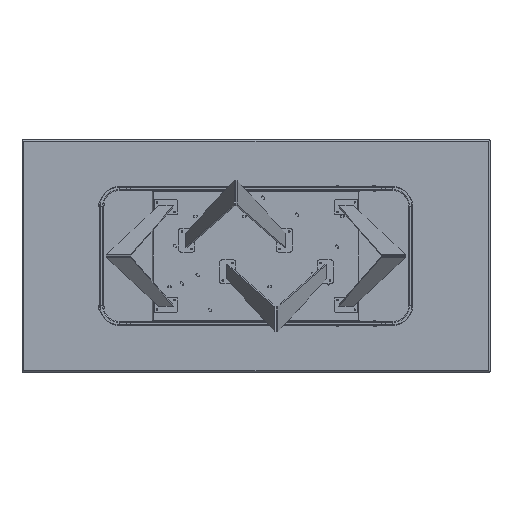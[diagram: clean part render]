
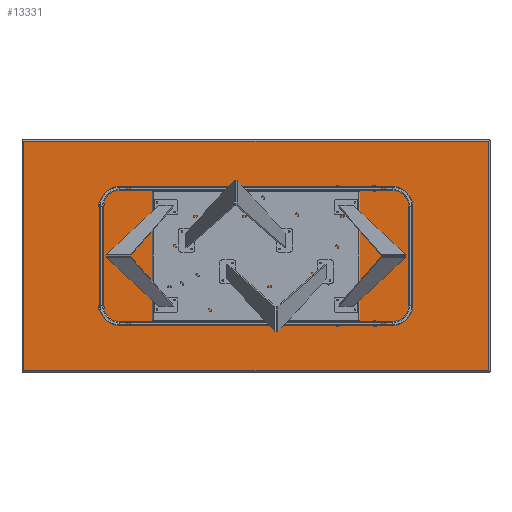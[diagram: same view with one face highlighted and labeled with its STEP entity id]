
A CAD part, front view. The second image highlights one B-rep face of the part: STEP entity #13331.
In plain terms, the highlighted planar face has unit normal (0, -1, 0).
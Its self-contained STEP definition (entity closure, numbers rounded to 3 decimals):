
#1037 = LINE ( 'NONE', #15084, #15863 ) ;
#1710 = CARTESIAN_POINT ( 'NONE',  ( 0., 0., -587. ) ) ;
#2579 = VECTOR ( 'NONE', #18784, 1000. ) ;
#3196 = LINE ( 'NONE', #1710, #10880 ) ;
#3388 = EDGE_CURVE ( 'NONE', #15142, #15985, #9777, .T. ) ;
#3508 = DIRECTION ( 'NONE',  ( 1., 0., 0. ) ) ;
#4086 = DIRECTION ( 'NONE',  ( 0., 0., 1. ) ) ;
#5242 = DIRECTION ( 'NONE',  ( 0., 0., 1. ) ) ;
#5378 = ORIENTED_EDGE ( 'NONE', *, *, #10091, .T. ) ;
#5969 = ORIENTED_EDGE ( 'NONE', *, *, #3388, .T. ) ;
#7835 = CARTESIAN_POINT ( 'NONE',  ( -1187., 0., 587. ) ) ;
#8172 = PLANE ( 'NONE',  #12095 ) ;
#9256 = CARTESIAN_POINT ( 'NONE',  ( 0., 0., 587. ) ) ;
#9777 = LINE ( 'NONE', #16078, #20412 ) ;
#10091 = EDGE_CURVE ( 'NONE', #15985, #11803, #3196, .T. ) ;
#10880 = VECTOR ( 'NONE', #3508, 1000. ) ;
#11053 = CARTESIAN_POINT ( 'NONE',  ( -1187., 0., -587. ) ) ;
#11198 = VERTEX_POINT ( 'NONE', #16513 ) ;
#11344 = EDGE_CURVE ( 'NONE', #11198, #15142, #19198, .T. ) ;
#11803 = VERTEX_POINT ( 'NONE', #15513 ) ;
#12095 = AXIS2_PLACEMENT_3D ( 'NONE', #14877, #17924, #5242 ) ;
#13200 = FACE_OUTER_BOUND ( 'NONE', #15923, .T. ) ;
#13331 = ADVANCED_FACE ( 'NONE', ( #13200 ), #8172, .F. ) ;
#13841 = ORIENTED_EDGE ( 'NONE', *, *, #11344, .T. ) ;
#14877 = CARTESIAN_POINT ( 'NONE',  ( 0., 0., 0. ) ) ;
#14990 = EDGE_CURVE ( 'NONE', #11803, #11198, #1037, .T. ) ;
#15084 = CARTESIAN_POINT ( 'NONE',  ( 1187., 0., 0. ) ) ;
#15142 = VERTEX_POINT ( 'NONE', #7835 ) ;
#15513 = CARTESIAN_POINT ( 'NONE',  ( 1187., 0., -587. ) ) ;
#15863 = VECTOR ( 'NONE', #4086, 1000. ) ;
#15923 = EDGE_LOOP ( 'NONE', ( #20330, #13841, #5969, #5378 ) ) ;
#15985 = VERTEX_POINT ( 'NONE', #11053 ) ;
#16078 = CARTESIAN_POINT ( 'NONE',  ( -1187., 0., 0. ) ) ;
#16513 = CARTESIAN_POINT ( 'NONE',  ( 1187., 0., 587. ) ) ;
#17550 = DIRECTION ( 'NONE',  ( 0., 0., -1. ) ) ;
#17924 = DIRECTION ( 'NONE',  ( 0., 1., 0. ) ) ;
#18784 = DIRECTION ( 'NONE',  ( -1., 0., 0. ) ) ;
#19198 = LINE ( 'NONE', #9256, #2579 ) ;
#20330 = ORIENTED_EDGE ( 'NONE', *, *, #14990, .T. ) ;
#20412 = VECTOR ( 'NONE', #17550, 1000. ) ;
